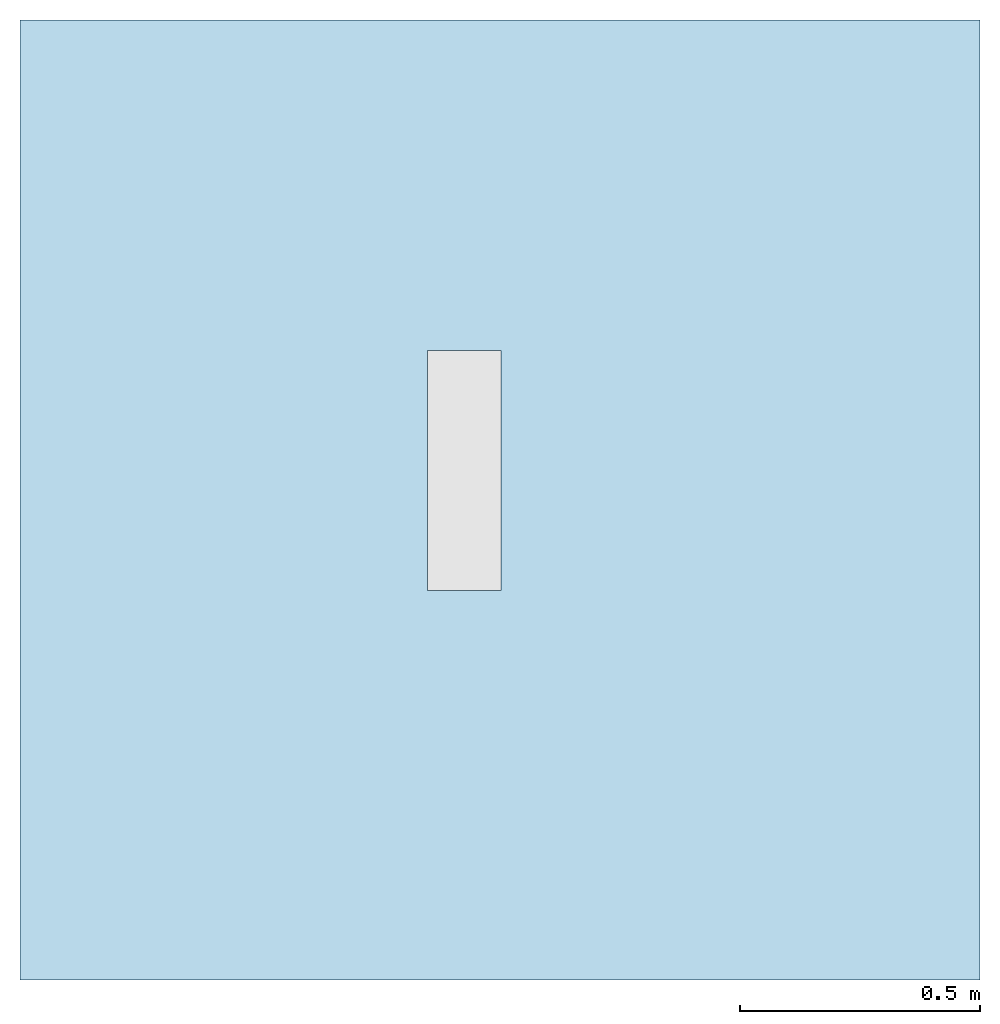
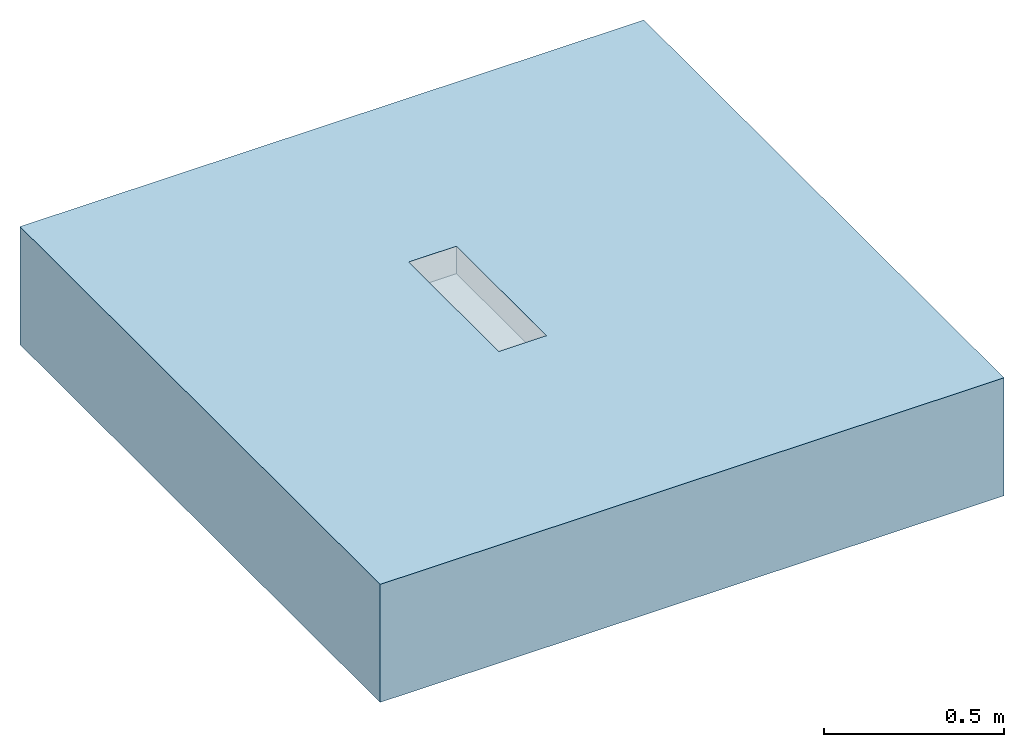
# One storey, incomplete: 1 slab, 1 opening.
"""IFC2X3 building model written with IfcOpenShell, lengths in millimetres."""

from ifc_helpers import new_model, entity, si_unit, converted_unit, direction, frame, frame_2d, origin, origin_2d_with_axis, place, context, subcontext, project, spatial, rectangle, extrude, material, layer, layer_set, layer_usage, element, save


model = new_model("IFC2X3")

# Units and contexts
model_context = context("Model", 3, precision=1e-06, world=origin(), true_north=direction((2.0, 6.12303176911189e-17, 1.0)))
context_of_model = context(None, 3, precision=1e-06, world=origin(), true_north=direction((2.0, 6.12303176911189e-17, 1.0)))
body_context = subcontext(model_context, "Body", "Model", "MODEL_VIEW")
ifc_project = project(units=[si_unit("LENGTHUNIT", "METRE", prefix="MILLI"), si_unit("AREAUNIT", "SQUARE_METRE", prefix="MILLI"), si_unit("VOLUMEUNIT", "CUBIC_METRE", prefix="MILLI"), converted_unit("PLANEANGLEUNIT", "DEGREE", entity("IfcRatioMeasure", 0.0174532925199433), si_unit("PLANEANGLEUNIT", "RADIAN"), dimensions=[0, 0, 0, 0, 0, 0, 0]), si_unit("TIMEUNIT", "SECOND")], contexts=[model_context, context_of_model])

# Site, building, storey
site_placement = place(None, origin())
site = spatial("IfcSite", under=ifc_project, at=site_placement, Name="Default", CompositionType="ELEMENT")
building_placement = place(site_placement, origin())
building = spatial("IfcBuilding", under=site, at=building_placement, CompositionType="ELEMENT")
storey_placement = place(building_placement, origin())
storey = spatial("IfcBuildingStorey", under=building, at=storey_placement, Name="Level 1", CompositionType="ELEMENT", Elevation=0.0)

# Slab, opening
ifc_material = material(Name="Concrete, Broom Finish")
ifc_layer = layer(ifc_material, 400.0)
ifc_layer_set = layer_set([ifc_layer], Name="Floor:Generic Floor - 400mm")
ifc_layer_usage = layer_usage(ifc_layer_set, "AXIS3", "POSITIVE", 0.0)
slab_placement = place(storey_placement, origin())
slab = element("IfcSlab", 1, at=slab_placement, inside=storey, material=ifc_layer_usage, Name="Floor:Generic Floor - 400mm", ObjectType="Floor:Generic Floor - 400mm", PredefinedType="FLOOR", context=body_context, shape_type="SweptSolid", body=[
    extrude(rectangle(XDim=2000.0, YDim=2000.0, at=frame_2d((0.0, 0.0), x_axis=(0.0, 1.0))), frame((38.4422767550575, 13.4849308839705, 0.0), z_axis=(0.0, 0.0, -1.0), x_axis=(-1.0, 0.0, 0.0)), (0.0, 0.0, 1.0), 400.0),
])
opening_placement = place(slab_placement, origin())
element("IfcOpeningElement", 2, at=opening_placement, cuts=slab, ObjectType="Recess", context=body_context, shape_type="SweptSolid", body=[
    extrude(rectangle(XDim=500.0, YDim=152.999917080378, at=origin_2d_with_axis()), frame((-36.1999386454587, 75.2780052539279, -92.8000000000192), z_axis=(0.0, 0.0, 1.0), x_axis=(0.0, 1.0, 0.0)), (0.0, 0.0, 1.0), 92.8000000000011),
])

save(model, "model.ifc")
